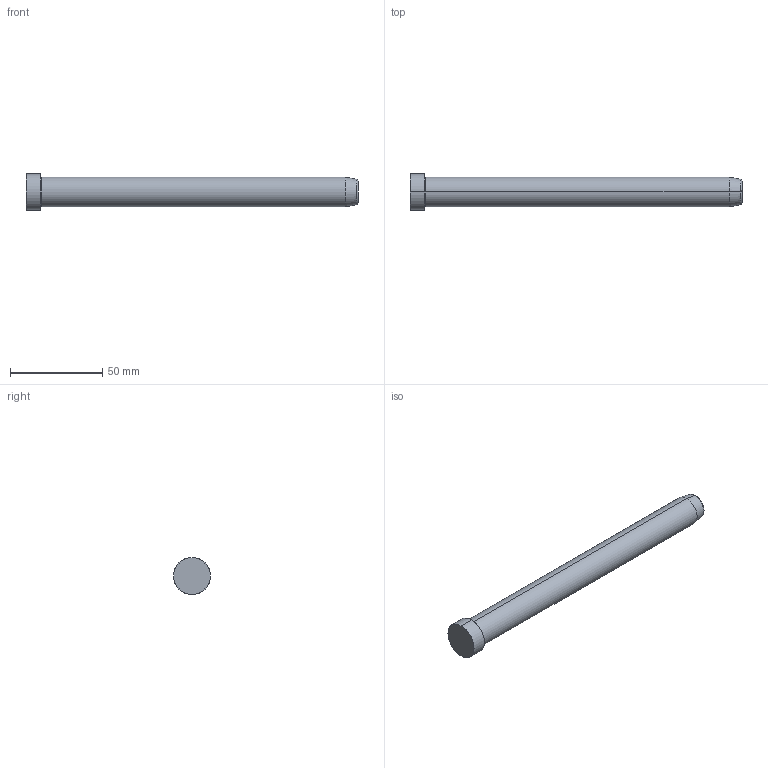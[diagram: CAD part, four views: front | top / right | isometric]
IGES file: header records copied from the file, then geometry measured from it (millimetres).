
Start section: SolidWorks IGES FILE using analytic representation for surfaces
Global section: file name: D:\zzzzz\Delta\D01 D\16\D01 D - 16x180.IGS; native system: SolidWorks 2004 by SolidWorks Corporation; preprocessor: Version 5.3; author: Hkn; date: 080326.194139; units: millimetre
Bounding box: 180 x 20 x 20 mm (x, y, z)
Surface area: 9708.9 mm2 (no closed solid volume)
Topology: 0 solids, 0 shells, 14 faces, 232 edges, 232 vertices
Faces by surface type: revolution 8, bspline 6
